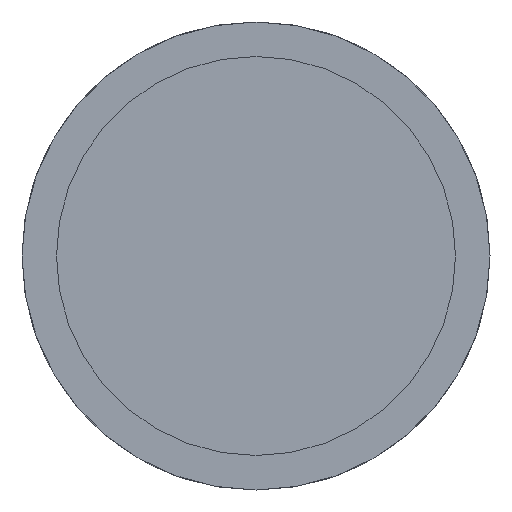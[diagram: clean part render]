
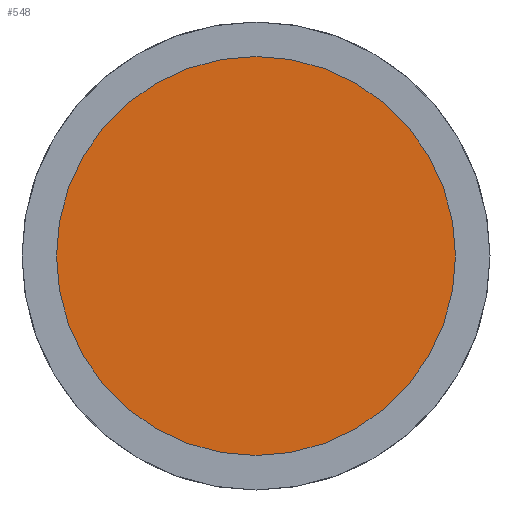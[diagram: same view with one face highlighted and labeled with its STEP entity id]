
A CAD part, left-side view. The second image highlights one B-rep face of the part: STEP entity #548.
In plain terms, the highlighted planar face has unit normal (-1, 0, 0).
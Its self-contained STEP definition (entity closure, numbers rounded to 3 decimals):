
#26=PLANE($,#622);
#96=FACE_OUTER_BOUND($,#127,.T.);
#127=EDGE_LOOP($,(#426));
#179=CIRCLE($,#623,55.);
#248=VERTEX_POINT($,#1126);
#325=EDGE_CURVE($,#248,#248,#179,.T.);
#426=ORIENTED_EDGE($,*,*,#325,.F.);
#548=ADVANCED_FACE($,(#96),#26,.T.);
#622=AXIS2_PLACEMENT_3D($,#1125,#780,#781);
#623=AXIS2_PLACEMENT_3D($,#1127,#782,#783);
#780=DIRECTION('center_axis',(-1.,0.,0.));
#781=DIRECTION('ref_axis',(0.,0.,1.));
#782=DIRECTION('center_axis',(1.,0.,0.));
#783=DIRECTION('ref_axis',(0.,1.,0.));
#1125=CARTESIAN_POINT('Origin',(-6.,27.5,0.));
#1126=CARTESIAN_POINT('',(-6.,55.,0.));
#1127=CARTESIAN_POINT('Origin',(-6.,0.,0.));
